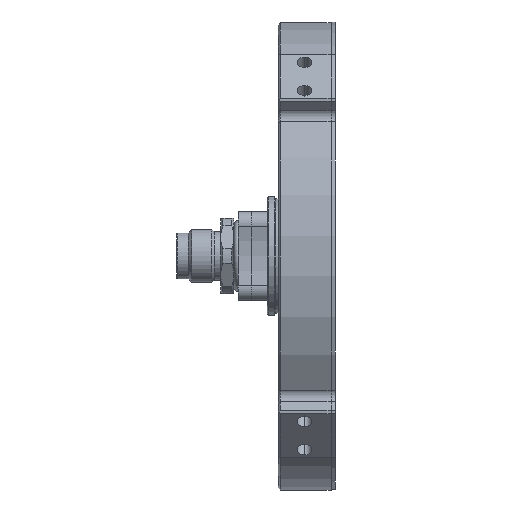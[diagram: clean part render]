
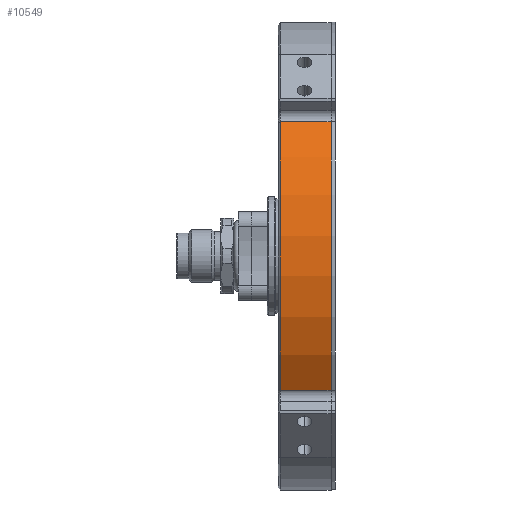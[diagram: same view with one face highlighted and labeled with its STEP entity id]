
A CAD part, left-side view. The second image highlights one B-rep face of the part: STEP entity #10549.
In plain terms, the highlighted cylindrical face has radius 53 mm (diameter 106 mm), a partial arc.
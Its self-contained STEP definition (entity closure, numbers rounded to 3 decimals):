
#1164 = DIRECTION ( 'NONE',  ( 0., -1., 0. ) ) ;
#1227 = AXIS2_PLACEMENT_3D ( 'NONE', #16460, #12854, #2738 ) ;
#2738 = DIRECTION ( 'NONE',  ( 0., 0., -1. ) ) ;
#3389 = VERTEX_POINT ( 'NONE', #19901 ) ;
#3682 = VECTOR ( 'NONE', #1164, 1000. ) ;
#3748 = ORIENTED_EDGE ( 'NONE', *, *, #16770, .T. ) ;
#3777 = CARTESIAN_POINT ( 'NONE',  ( -43.387, 0., 30.44 ) ) ;
#3988 = DIRECTION ( 'NONE',  ( 0., 1., 0. ) ) ;
#4789 = LINE ( 'NONE', #3777, #8007 ) ;
#5124 = DIRECTION ( 'NONE',  ( 0., 0., -1. ) ) ;
#5794 = EDGE_CURVE ( 'NONE', #8345, #13200, #10443, .T. ) ;
#7349 = EDGE_CURVE ( 'NONE', #3389, #14489, #8954, .T. ) ;
#8007 = VECTOR ( 'NONE', #3988, 1000. ) ;
#8345 = VERTEX_POINT ( 'NONE', #8996 ) ;
#8954 = CIRCLE ( 'NONE', #1227, 53. ) ;
#8996 = CARTESIAN_POINT ( 'NONE',  ( -43.387, 12.5, 30.44 ) ) ;
#10443 = CIRCLE ( 'NONE', #11098, 53. ) ;
#10549 = ADVANCED_FACE ( 'NONE', ( #21091 ), #19482, .T. ) ;
#10875 = CARTESIAN_POINT ( 'NONE',  ( -43.387, 12.5, -30.44 ) ) ;
#11064 = ORIENTED_EDGE ( 'NONE', *, *, #7349, .F. ) ;
#11098 = AXIS2_PLACEMENT_3D ( 'NONE', #15881, #12347, #17619 ) ;
#11433 = CARTESIAN_POINT ( 'NONE',  ( -43.387, 0., -30.44 ) ) ;
#11926 = DIRECTION ( 'NONE',  ( 0., -1., 0. ) ) ;
#12002 = CARTESIAN_POINT ( 'NONE',  ( 0., 0., 0. ) ) ;
#12166 = EDGE_CURVE ( 'NONE', #13200, #14489, #12336, .T. ) ;
#12336 = LINE ( 'NONE', #11433, #3682 ) ;
#12347 = DIRECTION ( 'NONE',  ( 0., -1., 0. ) ) ;
#12854 = DIRECTION ( 'NONE',  ( 0., -1., 0. ) ) ;
#13200 = VERTEX_POINT ( 'NONE', #10875 ) ;
#13804 = ORIENTED_EDGE ( 'NONE', *, *, #5794, .T. ) ;
#14489 = VERTEX_POINT ( 'NONE', #20818 ) ;
#15840 = EDGE_LOOP ( 'NONE', ( #3748, #13804, #18231, #11064 ) ) ;
#15881 = CARTESIAN_POINT ( 'NONE',  ( 0., 12.5, 0. ) ) ;
#16460 = CARTESIAN_POINT ( 'NONE',  ( 0., 1., 0. ) ) ;
#16770 = EDGE_CURVE ( 'NONE', #3389, #8345, #4789, .T. ) ;
#16950 = AXIS2_PLACEMENT_3D ( 'NONE', #12002, #11926, #5124 ) ;
#17619 = DIRECTION ( 'NONE',  ( 0., 0., -1. ) ) ;
#18231 = ORIENTED_EDGE ( 'NONE', *, *, #12166, .T. ) ;
#19482 = CYLINDRICAL_SURFACE ( 'NONE', #16950, 53. ) ;
#19901 = CARTESIAN_POINT ( 'NONE',  ( -43.387, 1., 30.44 ) ) ;
#20818 = CARTESIAN_POINT ( 'NONE',  ( -43.387, 1., -30.44 ) ) ;
#21091 = FACE_OUTER_BOUND ( 'NONE', #15840, .T. ) ;
